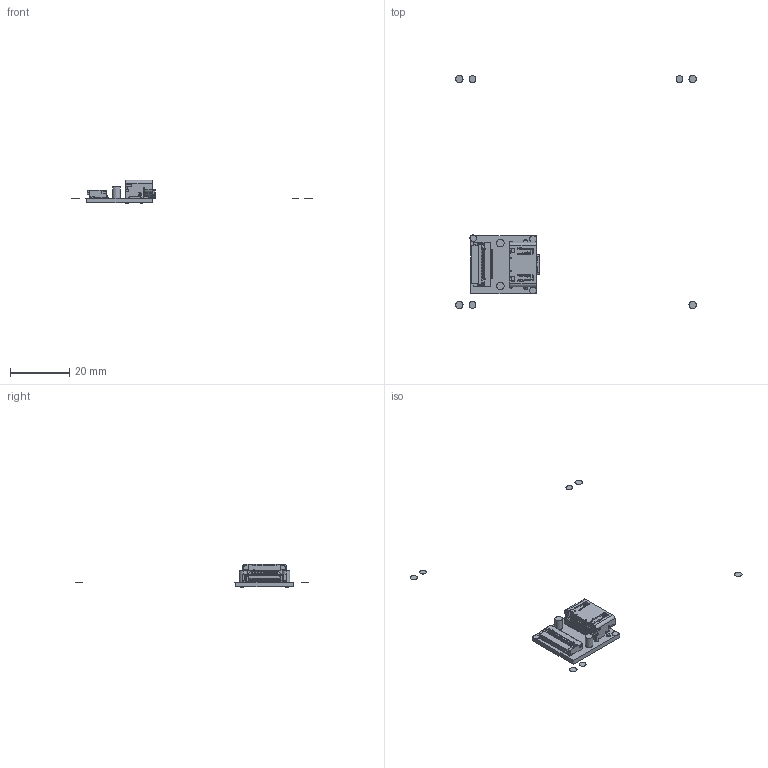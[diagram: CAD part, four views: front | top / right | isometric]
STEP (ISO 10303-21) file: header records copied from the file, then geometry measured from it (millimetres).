
FILE_DESCRIPTION(/* description */ ('PCB Design'),/* implementation_level */ '2;1');
FILE_NAME(/* name */ 'J-D_HDMI_ADAPTER_R1',/* time_stamp */ '2023-05-29T10:50:16+03:00',/* author */ (''),/* organization */ (''),/* preprocessor_version */ 'ST-DEVELOPER v16',/* originating_system */ 'allegro_17.2S083',/* authorisation */ '');
FILE_SCHEMA (('AUTOMOTIVE_DESIGN { 1 0 10303 214 3 1 1 }'));
Products named in the file (13): J-D_HDMI_ADAPTER_R1; BOARD_OUTLINE; COMPONENTS; MX46765-0302_TRIM; MU98K130; CON_HDMI_19F_20_SM_RA; UP94; FH28D-20S-0P5S; FID40; 467650302; 10029449-001LF; FH28D-20S-0.5SH_簡略.1
Assembly tree (21 placements, depth 5):
  J-D_HDMI_ADAPTER_R1
    BOARD_OUTLINE
    COMPONENTS
      MX46765-0302_TRIM
        467650302
      MU98K130  x4
      CON_HDMI_19F_20_SM_RA
        10029449-001LF
      UP94  x2
      FH28D-20S-0P5S
        FH28D-20S-0.5SH_簡略.1
          FH28D-20S-0.5SH_簡略.1
      FID40  x6
Bounding box: 81.23 x 78.69 x 8 mm (x, y, z)
Volume: 553.1 mm3; surface area: 3241.5 mm2
Topology: 3 solids, 16 shells, 2900 faces, 9145 edges, 6233 vertices
Faces by surface type: plane 2205, cylinder 647, cone 28, torus 16, bspline 4
Entity records: 97837 total; most frequent: CARTESIAN_POINT 17688, ORIENTED_EDGE 16670, DIRECTION 15481, EDGE_CURVE 8345, VECTOR 7584, LINE 7584, VERTEX_POINT 5479, AXIS2_PLACEMENT_3D 4033
